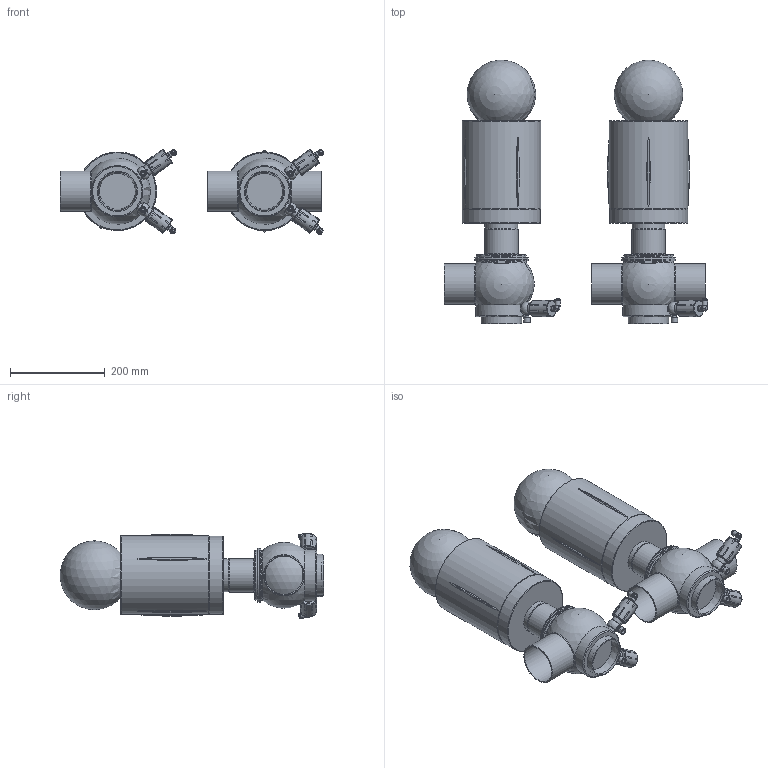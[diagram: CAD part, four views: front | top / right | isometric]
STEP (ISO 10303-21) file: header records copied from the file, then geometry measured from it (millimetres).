
FILE_DESCRIPTION(/* description */ (''),/* implementation_level */ '2;1');
FILE_NAME(/* name */ 'C:\Users\marz-m\Downloads\BZZAW3 3D STEP\BZAW3-DN080-SAL.stp',/* time_stamp */ '2018-09-26T15:12:38+02:00',/* author */ ('marz-m'),/* organization */ (''),/* preprocessor_version */ 'ST-DEVELOPER v17',/* originating_system */ 'Autodesk Inventor 2018',/* authorisation */ '');
FILE_SCHEMA (('AUTOMOTIVE_DESIGN { 1 0 10303 214 3 1 1 }'));
Length unit declared in the file: millimetre
Products named in the file (7): BZAW3-DN080-SAL; TRH5A0080BBA; TRH6A0080BBA; Assemblaggio-DN080; CIL156; SAGOMA-GIOTTO-; Valvolina 3A
Assembly tree (12 placements, depth 2):
  BZAW3-DN080-SAL
    SAGOMA-GIOTTO-  x2
    CIL156  x2
    Assemblaggio-DN080  x2
    TRH5A0080BBA
    TRH6A0080BBA
    Valvolina 3A  x4
Bounding box: 554.46 x 554.97 x 179.06 mm (x, y, z)
Volume: 16257522 mm3; surface area: 839024.6 mm2
Topology: 12 solids, 12 shells, 649 faces, 1856 edges, 1308 vertices
Faces by surface type: plane 279, cylinder 192, cone 91, bspline 52, torus 24, sphere 11
Full cylindrical faces by diameter (mm): 2 x8, 6 x16, 7 x4, 8 x4, 8.1 x4, 10 x4, 11 x4, 11.5 x4, 12.918 x4, 13.157 x4, 14 x4, 15.9 x4, 16 x4, 20 x4, 22 x4, 35 x4, 69 x2, 71 x2, 81 x5, 85 x5, 105 x2, 108 x2, 113 x4, 164.5 x2, 166 x2
Entity records: 10500 total; most frequent: CARTESIAN_POINT 3878, DIRECTION 1325, ORIENTED_EDGE 1310, EDGE_CURVE 655, AXIS2_PLACEMENT_3D 561, VERTEX_POINT 473, CIRCLE 316, EDGE_LOOP 278
